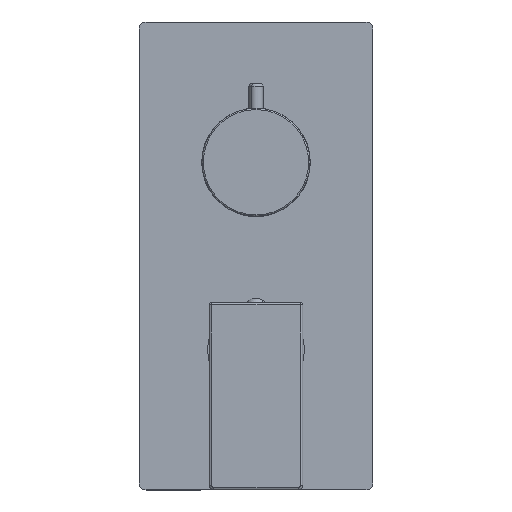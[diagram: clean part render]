
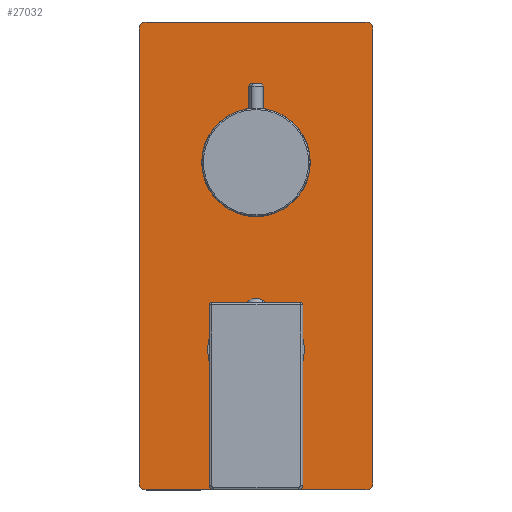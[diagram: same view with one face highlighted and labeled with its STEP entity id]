
A CAD part, top view. The second image highlights one B-rep face of the part: STEP entity #27032.
In plain terms, the highlighted planar face has unit normal (0, 0, 1) as drawn and (0, 0, -1) by its records, which use the part's own axes.
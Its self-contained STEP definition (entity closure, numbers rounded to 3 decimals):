
#447 = DIRECTION ( 'NONE',  ( 1., 0., 0. ) ) ;
#1056 = EDGE_LOOP ( 'NONE', ( #9610, #31314 ) ) ;
#1208 = ORIENTED_EDGE ( 'NONE', *, *, #21942, .T. ) ;
#2039 = DIRECTION ( 'NONE',  ( 1., 0., 0. ) ) ;
#2164 = LINE ( 'NONE', #12484, #12120 ) ;
#2367 = ORIENTED_EDGE ( 'NONE', *, *, #9186, .T. ) ;
#3043 = LINE ( 'NONE', #30095, #9655 ) ;
#3099 = EDGE_CURVE ( 'NONE', #4006, #24891, #20173, .T. ) ;
#3818 = CARTESIAN_POINT ( 'NONE',  ( -100., -50., 0. ) ) ;
#4006 = VERTEX_POINT ( 'NONE', #7757 ) ;
#4810 = DIRECTION ( 'NONE',  ( 0., 0., 1. ) ) ;
#5395 = CARTESIAN_POINT ( 'NONE',  ( -100., -47., 0. ) ) ;
#5541 = ORIENTED_EDGE ( 'NONE', *, *, #22563, .T. ) ;
#5585 = CARTESIAN_POINT ( 'NONE',  ( -97., -50., 0. ) ) ;
#5969 = VERTEX_POINT ( 'NONE', #26883 ) ;
#6241 = CIRCLE ( 'NONE', #27258, 23.2 ) ;
#6572 = EDGE_CURVE ( 'NONE', #5969, #23079, #19368, .T. ) ;
#7036 = VERTEX_POINT ( 'NONE', #19391 ) ;
#7757 = CARTESIAN_POINT ( 'NONE',  ( -100., 47., 0. ) ) ;
#8553 = CIRCLE ( 'NONE', #18206, 3. ) ;
#8593 = CARTESIAN_POINT ( 'NONE',  ( 97., 47., 0. ) ) ;
#9186 = EDGE_CURVE ( 'NONE', #23079, #5969, #6241, .T. ) ;
#9230 = VECTOR ( 'NONE', #32849, 1000. ) ;
#9447 = CARTESIAN_POINT ( 'NONE',  ( -97., 47., 0. ) ) ;
#9479 = DIRECTION ( 'NONE',  ( 0., 0., 1. ) ) ;
#9610 = ORIENTED_EDGE ( 'NONE', *, *, #16875, .T. ) ;
#9652 = CIRCLE ( 'NONE', #23878, 20.7 ) ;
#9655 = VECTOR ( 'NONE', #32774, 1000. ) ;
#10160 = AXIS2_PLACEMENT_3D ( 'NONE', #16119, #26618, #32162 ) ;
#11017 = AXIS2_PLACEMENT_3D ( 'NONE', #30368, #9479, #447 ) ;
#12120 = VECTOR ( 'NONE', #15322, 1000. ) ;
#12484 = CARTESIAN_POINT ( 'NONE',  ( 100., -50., 0. ) ) ;
#12702 = ORIENTED_EDGE ( 'NONE', *, *, #12999, .F. ) ;
#12999 = EDGE_CURVE ( 'NONE', #13363, #30698, #13976, .T. ) ;
#13363 = VERTEX_POINT ( 'NONE', #5585 ) ;
#13524 = EDGE_LOOP ( 'NONE', ( #2367, #21058 ) ) ;
#13613 = VECTOR ( 'NONE', #14830, 1000. ) ;
#13976 = LINE ( 'NONE', #24139, #9230 ) ;
#13984 = FACE_OUTER_BOUND ( 'NONE', #18762, .T. ) ;
#14007 = AXIS2_PLACEMENT_3D ( 'NONE', #22478, #22648, #31207 ) ;
#14255 = ORIENTED_EDGE ( 'NONE', *, *, #25940, .F. ) ;
#14830 = DIRECTION ( 'NONE',  ( 0., -1., 0. ) ) ;
#15322 = DIRECTION ( 'NONE',  ( 0., 1., 0. ) ) ;
#16119 = CARTESIAN_POINT ( 'NONE',  ( -97., -47., 0. ) ) ;
#16246 = CARTESIAN_POINT ( 'NONE',  ( 97., -47., 0. ) ) ;
#16574 = VERTEX_POINT ( 'NONE', #23934 ) ;
#16875 = EDGE_CURVE ( 'NONE', #16574, #23699, #25938, .T. ) ;
#17016 = VERTEX_POINT ( 'NONE', #31735 ) ;
#18206 = AXIS2_PLACEMENT_3D ( 'NONE', #8593, #19629, #28174 ) ;
#18399 = DIRECTION ( 'NONE',  ( 0., 0., -1. ) ) ;
#18762 = EDGE_LOOP ( 'NONE', ( #34337, #5541, #28026, #1208, #14255, #24537, #12702, #26495 ) ) ;
#19173 = AXIS2_PLACEMENT_3D ( 'NONE', #16246, #18399, #2039 ) ;
#19368 = CIRCLE ( 'NONE', #27922, 23.2 ) ;
#19391 = CARTESIAN_POINT ( 'NONE',  ( 97., 50., 0. ) ) ;
#19606 = EDGE_CURVE ( 'NONE', #17016, #30698, #32293, .T. ) ;
#19629 = DIRECTION ( 'NONE',  ( 0., 0., -1. ) ) ;
#20173 = LINE ( 'NONE', #3818, #13613 ) ;
#20438 = AXIS2_PLACEMENT_3D ( 'NONE', #9447, #33821, #31167 ) ;
#20708 = CARTESIAN_POINT ( 'NONE',  ( 100., 47., 0. ) ) ;
#21058 = ORIENTED_EDGE ( 'NONE', *, *, #6572, .T. ) ;
#21168 = EDGE_CURVE ( 'NONE', #7036, #32156, #3043, .T. ) ;
#21651 = DIRECTION ( 'NONE',  ( 1., 0., 0. ) ) ;
#21942 = EDGE_CURVE ( 'NONE', #7036, #31144, #8553, .T. ) ;
#22137 = CIRCLE ( 'NONE', #20438, 3. ) ;
#22478 = CARTESIAN_POINT ( 'NONE',  ( -40., 0., 0. ) ) ;
#22563 = EDGE_CURVE ( 'NONE', #4006, #32156, #22137, .T. ) ;
#22648 = DIRECTION ( 'NONE',  ( 0., 0., 1. ) ) ;
#22672 = EDGE_CURVE ( 'NONE', #23699, #16574, #9652, .T. ) ;
#22993 = FACE_BOUND ( 'NONE', #13524, .T. ) ;
#23079 = VERTEX_POINT ( 'NONE', #28268 ) ;
#23408 = CARTESIAN_POINT ( 'NONE',  ( 40., 0., 0. ) ) ;
#23590 = DIRECTION ( 'NONE',  ( 0., 0., 1. ) ) ;
#23699 = VERTEX_POINT ( 'NONE', #24464 ) ;
#23764 = DIRECTION ( 'NONE',  ( 1., 0., 0. ) ) ;
#23878 = AXIS2_PLACEMENT_3D ( 'NONE', #29183, #4810, #26506 ) ;
#23934 = CARTESIAN_POINT ( 'NONE',  ( -60.7, 0., 0. ) ) ;
#24139 = CARTESIAN_POINT ( 'NONE',  ( 100., -50., 0. ) ) ;
#24464 = CARTESIAN_POINT ( 'NONE',  ( -19.3, 0., 0. ) ) ;
#24537 = ORIENTED_EDGE ( 'NONE', *, *, #19606, .T. ) ;
#24838 = FACE_BOUND ( 'NONE', #1056, .T. ) ;
#24891 = VERTEX_POINT ( 'NONE', #5395 ) ;
#25938 = CIRCLE ( 'NONE', #14007, 20.7 ) ;
#25940 = EDGE_CURVE ( 'NONE', #17016, #31144, #2164, .T. ) ;
#26048 = CARTESIAN_POINT ( 'NONE',  ( -97., 50., 0. ) ) ;
#26059 = CIRCLE ( 'NONE', #10160, 3. ) ;
#26495 = ORIENTED_EDGE ( 'NONE', *, *, #31934, .T. ) ;
#26506 = DIRECTION ( 'NONE',  ( 1., 0., 0. ) ) ;
#26618 = DIRECTION ( 'NONE',  ( 0., 0., -1. ) ) ;
#26883 = CARTESIAN_POINT ( 'NONE',  ( 63.2, 0., 0. ) ) ;
#27032 = ADVANCED_FACE ( 'NONE', ( #13984, #24838, #22993 ), #33851, .F. ) ;
#27258 = AXIS2_PLACEMENT_3D ( 'NONE', #35182, #29135, #21651 ) ;
#27922 = AXIS2_PLACEMENT_3D ( 'NONE', #23408, #23590, #23764 ) ;
#28026 = ORIENTED_EDGE ( 'NONE', *, *, #21168, .F. ) ;
#28174 = DIRECTION ( 'NONE',  ( 1., 0., 0. ) ) ;
#28268 = CARTESIAN_POINT ( 'NONE',  ( 16.8, 0., 0. ) ) ;
#29135 = DIRECTION ( 'NONE',  ( 0., 0., 1. ) ) ;
#29183 = CARTESIAN_POINT ( 'NONE',  ( -40., 0., 0. ) ) ;
#29650 = CARTESIAN_POINT ( 'NONE',  ( 97., -50., 0. ) ) ;
#30095 = CARTESIAN_POINT ( 'NONE',  ( 100., 50., 0. ) ) ;
#30368 = CARTESIAN_POINT ( 'NONE',  ( 0., 0., 0. ) ) ;
#30698 = VERTEX_POINT ( 'NONE', #29650 ) ;
#31144 = VERTEX_POINT ( 'NONE', #20708 ) ;
#31167 = DIRECTION ( 'NONE',  ( 1., 0., 0. ) ) ;
#31207 = DIRECTION ( 'NONE',  ( 1., 0., 0. ) ) ;
#31314 = ORIENTED_EDGE ( 'NONE', *, *, #22672, .T. ) ;
#31735 = CARTESIAN_POINT ( 'NONE',  ( 100., -47., 0. ) ) ;
#31934 = EDGE_CURVE ( 'NONE', #13363, #24891, #26059, .T. ) ;
#32156 = VERTEX_POINT ( 'NONE', #26048 ) ;
#32162 = DIRECTION ( 'NONE',  ( 1., 0., 0. ) ) ;
#32293 = CIRCLE ( 'NONE', #19173, 3. ) ;
#32774 = DIRECTION ( 'NONE',  ( -1., 0., 0. ) ) ;
#32849 = DIRECTION ( 'NONE',  ( 1., 0., 0. ) ) ;
#33821 = DIRECTION ( 'NONE',  ( 0., 0., -1. ) ) ;
#33851 = PLANE ( 'NONE',  #11017 ) ;
#34337 = ORIENTED_EDGE ( 'NONE', *, *, #3099, .F. ) ;
#35182 = CARTESIAN_POINT ( 'NONE',  ( 40., 0., 0. ) ) ;
